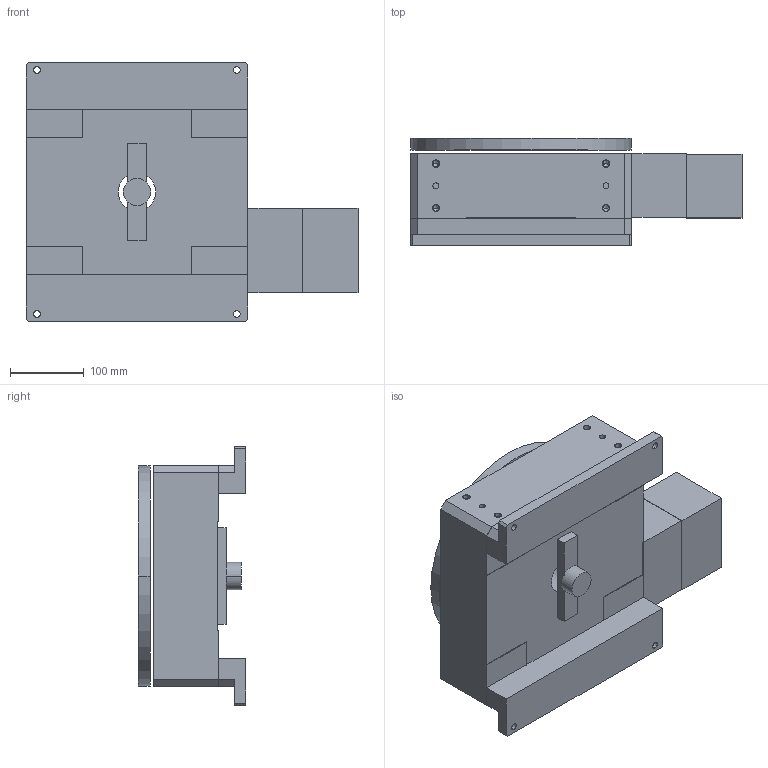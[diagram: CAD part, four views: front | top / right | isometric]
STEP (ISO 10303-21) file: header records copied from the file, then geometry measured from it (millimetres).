
FILE_DESCRIPTION((''),'2;1');
FILE_NAME('R300M9M23E1_ASM','2009-07-02T',('FK20128'),(''),'PRO/ENGINEER BY PARAMETRIC TECHNOLOGY CORPORATION, 2006200','PRO/ENGINEER BY PARAMETRIC TECHNOLOGY CORPORATION, 2006200','');
FILE_SCHEMA(('CONFIG_CONTROL_DESIGN'));
Length unit declared in the file: millimetre
Products named in the file (7): R300M; R300M-M23; R300M-ENCODER-BRKT; R300M-ENCODER-STANDOFF; RXXXM-ENCODER; R300M-E1_ASM; R300M9M23E1_ASM
Assembly tree (7 placements, depth 3):
  R300M9M23E1_ASM
    R300M
    R300M-M23
    R300M-E1_ASM
      R300M-ENCODER-BRKT
      R300M-ENCODER-STANDOFF  x2
      RXXXM-ENCODER
Bounding box: 448.9 x 145.13 x 350 mm (x, y, z)
Volume: 11149842.6 mm3; surface area: 707587.9 mm2
Topology: 7 solids, 29 shells, 285 faces, 700 edges, 464 vertices
Faces by surface type: cylinder 152, plane 111, cone 22
Entity records: 7855 total; most frequent: DIRECTION 1494, CARTESIAN_POINT 1307, ORIENTED_EDGE 1140, EDGE_CURVE 610, AXIS2_PLACEMENT_3D 603, VERTEX_POINT 416, EDGE_LOOP 344, CIRCLE 322
